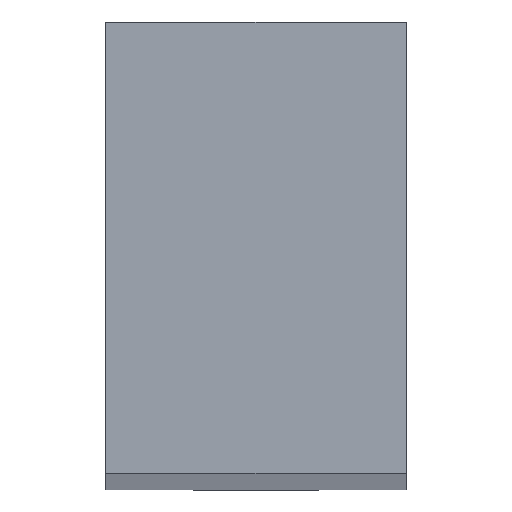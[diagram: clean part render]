
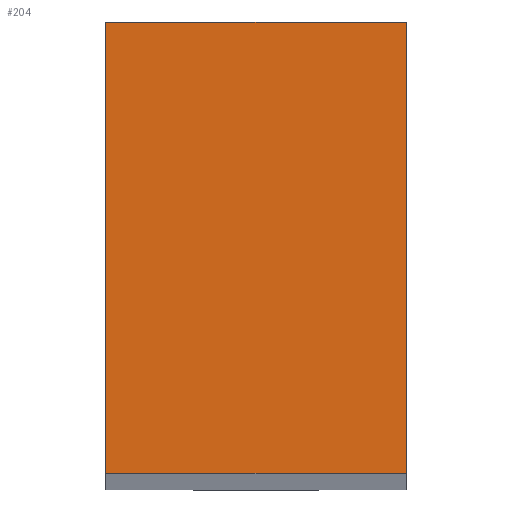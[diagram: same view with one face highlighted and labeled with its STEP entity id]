
A CAD part, top view. The second image highlights one B-rep face of the part: STEP entity #204.
In plain terms, the highlighted planar face has unit normal (0, 0, 1).
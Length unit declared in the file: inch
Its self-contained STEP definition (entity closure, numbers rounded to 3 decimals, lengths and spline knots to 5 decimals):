
#46 = CARTESIAN_POINT ( 'NONE',  ( 1.9685, 1.17175, 9.41732 ) ) ;
#139 = CARTESIAN_POINT ( 'NONE',  ( 2.21161, 1.17175, 9.41732 ) ) ;
#204 = ADVANCED_FACE ( 'NONE', ( #4723 ), #2186, .F. ) ;
#342 = DIRECTION ( 'NONE',  ( -1., 0., 0. ) ) ;
#697 = DIRECTION ( 'NONE',  ( 1., 0., 0. ) ) ;
#716 = ORIENTED_EDGE ( 'NONE', *, *, #2901, .F. ) ;
#833 = ORIENTED_EDGE ( 'NONE', *, *, #8094, .F. ) ;
#853 = CARTESIAN_POINT ( 'NONE',  ( 1.96161, 1.17175, 9.41732 ) ) ;
#1839 = CARTESIAN_POINT ( 'NONE',  ( 2.21161, 1.10925, 9.41732 ) ) ;
#2150 = EDGE_CURVE ( 'NONE', #2900, #6529, #3113, .T. ) ;
#2186 = PLANE ( 'NONE',  #5861 ) ;
#2201 = EDGE_CURVE ( 'NONE', #6529, #5726, #2494, .T. ) ;
#2494 = LINE ( 'NONE', #46, #4372 ) ;
#2708 = CARTESIAN_POINT ( 'NONE',  ( 1.9685, 0.07874, 9.41732 ) ) ;
#2900 = VERTEX_POINT ( 'NONE', #5898 ) ;
#2901 = EDGE_CURVE ( 'NONE', #6644, #2900, #3948, .T. ) ;
#3066 = VECTOR ( 'NONE', #3994, 39.37008 ) ;
#3113 = LINE ( 'NONE', #5719, #5038 ) ;
#3444 = DIRECTION ( 'NONE',  ( 0., 0., -1. ) ) ;
#3948 = LINE ( 'NONE', #5862, #3066 ) ;
#3994 = DIRECTION ( 'NONE',  ( -1., 0., 0. ) ) ;
#4369 = LINE ( 'NONE', #1839, #7256 ) ;
#4372 = VECTOR ( 'NONE', #697, 39.37008 ) ;
#4723 = FACE_OUTER_BOUND ( 'NONE', #6105, .T. ) ;
#4769 = CARTESIAN_POINT ( 'NONE',  ( 2.21161, 0.79675, 9.41732 ) ) ;
#5038 = VECTOR ( 'NONE', #7578, 39.37008 ) ;
#5719 = CARTESIAN_POINT ( 'NONE',  ( 1.96161, 0.85925, 9.41732 ) ) ;
#5726 = VERTEX_POINT ( 'NONE', #139 ) ;
#5861 = AXIS2_PLACEMENT_3D ( 'NONE', #2708, #3444, #342 ) ;
#5862 = CARTESIAN_POINT ( 'NONE',  ( 1.9685, 0.79675, 9.41732 ) ) ;
#5898 = CARTESIAN_POINT ( 'NONE',  ( 1.96161, 0.79675, 9.41732 ) ) ;
#6105 = EDGE_LOOP ( 'NONE', ( #6228, #716, #833, #6116 ) ) ;
#6116 = ORIENTED_EDGE ( 'NONE', *, *, #2201, .F. ) ;
#6228 = ORIENTED_EDGE ( 'NONE', *, *, #2150, .F. ) ;
#6529 = VERTEX_POINT ( 'NONE', #853 ) ;
#6644 = VERTEX_POINT ( 'NONE', #4769 ) ;
#6856 = DIRECTION ( 'NONE',  ( 0., -1., 0. ) ) ;
#7256 = VECTOR ( 'NONE', #6856, 39.37008 ) ;
#7578 = DIRECTION ( 'NONE',  ( 0., 1., 0. ) ) ;
#8094 = EDGE_CURVE ( 'NONE', #5726, #6644, #4369, .T. ) ;
